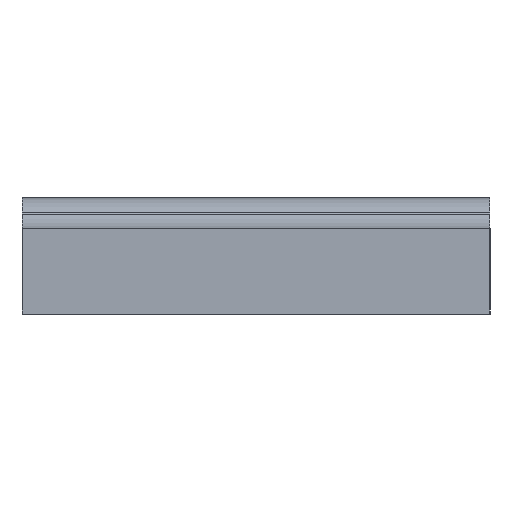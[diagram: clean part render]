
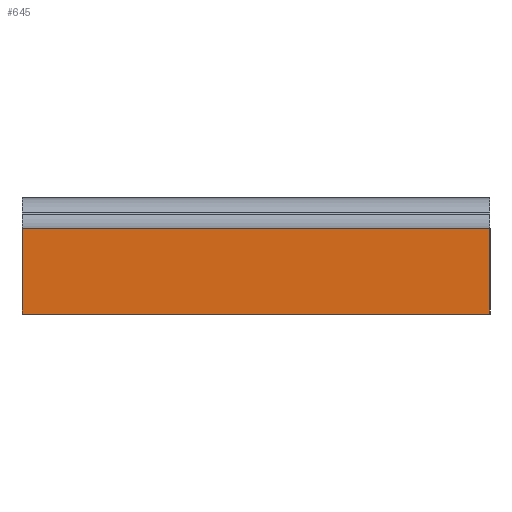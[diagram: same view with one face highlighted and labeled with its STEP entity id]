
A CAD part, left-side view. The second image highlights one B-rep face of the part: STEP entity #645.
In plain terms, the highlighted planar face has unit normal (-1, 0, 0).
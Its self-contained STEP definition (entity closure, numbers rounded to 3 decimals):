
#37=PLANE('',#704);
#72=FACE_OUTER_BOUND('',#108,.T.);
#108=EDGE_LOOP('',(#543,#544,#545,#546));
#154=LINE('',#996,#226);
#166=LINE('',#1028,#238);
#168=LINE('',#1032,#240);
#169=LINE('',#1033,#241);
#226=VECTOR('',#812,1.422);
#238=VECTOR('',#842,7.75);
#240=VECTOR('',#846,1.422);
#241=VECTOR('',#847,7.75);
#314=VERTEX_POINT('',#993);
#315=VERTEX_POINT('',#995);
#326=VERTEX_POINT('',#1027);
#327=VERTEX_POINT('',#1031);
#388=EDGE_CURVE('',#314,#315,#154,.T.);
#404=EDGE_CURVE('',#326,#315,#166,.T.);
#406=EDGE_CURVE('',#327,#326,#168,.T.);
#407=EDGE_CURVE('',#327,#314,#169,.T.);
#543=ORIENTED_EDGE('',*,*,#406,.T.);
#544=ORIENTED_EDGE('',*,*,#404,.T.);
#545=ORIENTED_EDGE('',*,*,#388,.F.);
#546=ORIENTED_EDGE('',*,*,#407,.F.);
#645=ADVANCED_FACE('',(#72),#37,.T.);
#704=AXIS2_PLACEMENT_3D('',#1030,#844,#845);
#812=DIRECTION('',(0.,0.,1.));
#842=DIRECTION('',(0.,1.,0.));
#844=DIRECTION('center_axis',(-1.,0.,0.));
#845=DIRECTION('ref_axis',(0.,0.,1.));
#846=DIRECTION('',(0.,0.,1.));
#847=DIRECTION('',(0.,1.,0.));
#993=CARTESIAN_POINT('',(-7.5,7.75,0.));
#995=CARTESIAN_POINT('',(-7.5,7.75,1.422));
#996=CARTESIAN_POINT('',(-7.5,7.75,0.));
#1027=CARTESIAN_POINT('',(-7.5,0.,1.422));
#1028=CARTESIAN_POINT('',(-7.5,0.,1.422));
#1030=CARTESIAN_POINT('Origin',(-7.5,0.,0.));
#1031=CARTESIAN_POINT('',(-7.5,0.,0.));
#1032=CARTESIAN_POINT('',(-7.5,0.,0.));
#1033=CARTESIAN_POINT('',(-7.5,0.,0.));
